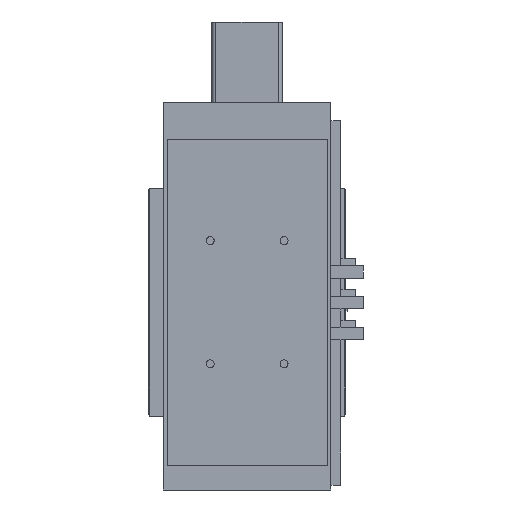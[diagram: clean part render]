
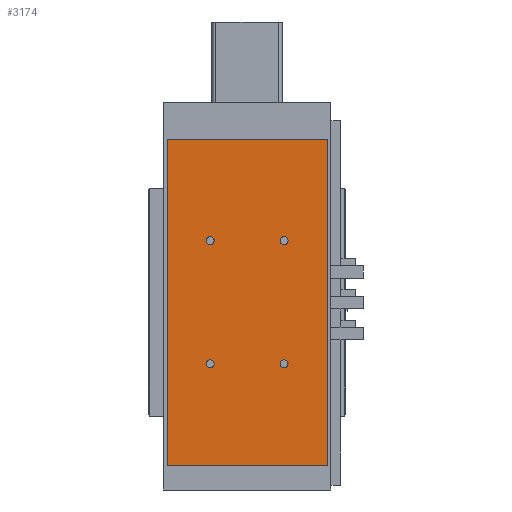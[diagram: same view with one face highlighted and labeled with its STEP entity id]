
A CAD part, front view. The second image highlights one B-rep face of the part: STEP entity #3174.
In plain terms, the highlighted planar face has unit normal (0, -1, 0).
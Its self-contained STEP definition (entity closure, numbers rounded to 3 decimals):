
#978=CARTESIAN_POINT('',(26.75,0.0,82.5));
#979=VERTEX_POINT('',#978);
#980=CARTESIAN_POINT('',(30.,0.0,82.5));
#981=DIRECTION('',(0.0,1.0,0.0));
#982=DIRECTION('',(1.0,0.0,0.0));
#983=AXIS2_PLACEMENT_3D('',#980,#981,#982);
#984=CIRCLE('',#983,3.25);
#985=EDGE_CURVE('',#979,#979,#984,.T.);
#1019=CARTESIAN_POINT('',(-33.25,0.0,82.5));
#1020=VERTEX_POINT('',#1019);
#1021=CARTESIAN_POINT('',(-30.,0.0,82.5));
#1022=DIRECTION('',(0.0,1.0,0.0));
#1023=DIRECTION('',(1.0,0.0,0.0));
#1024=AXIS2_PLACEMENT_3D('',#1021,#1022,#1023);
#1025=CIRCLE('',#1024,3.25);
#1026=EDGE_CURVE('',#1020,#1020,#1025,.T.);
#1198=CARTESIAN_POINT('',(26.75,0.0,182.5));
#1199=VERTEX_POINT('',#1198);
#1200=CARTESIAN_POINT('',(30.,0.0,182.5));
#1201=DIRECTION('',(0.0,1.0,0.0));
#1202=DIRECTION('',(1.0,0.0,0.0));
#1203=AXIS2_PLACEMENT_3D('',#1200,#1201,#1202);
#1204=CIRCLE('',#1203,3.25);
#1205=EDGE_CURVE('',#1199,#1199,#1204,.T.);
#1308=CARTESIAN_POINT('',(-33.25,0.0,182.5));
#1309=VERTEX_POINT('',#1308);
#1310=CARTESIAN_POINT('',(-30.,0.0,182.5));
#1311=DIRECTION('',(0.0,1.0,0.0));
#1312=DIRECTION('',(1.0,0.0,0.0));
#1313=AXIS2_PLACEMENT_3D('',#1310,#1311,#1312);
#1314=CIRCLE('',#1313,3.25);
#1315=EDGE_CURVE('',#1309,#1309,#1314,.T.);
#1642=CARTESIAN_POINT('',(65.0,0.0,0.0));
#1643=VERTEX_POINT('',#1642);
#1650=CARTESIAN_POINT('',(-65.0,0.0,0.0));
#1651=VERTEX_POINT('',#1650);
#1652=CARTESIAN_POINT('',(-65.0,0.0,0.0));
#1653=DIRECTION('',(1.0,0.0,0.0));
#1654=VECTOR('',#1653,130.0);
#1655=LINE('',#1652,#1654);
#1656=EDGE_CURVE('',#1651,#1643,#1655,.T.);
#3082=CARTESIAN_POINT('',(-65.0,0.0,265.0));
#3083=VERTEX_POINT('',#3082);
#3090=CARTESIAN_POINT('',(65.0,0.0,265.0));
#3091=VERTEX_POINT('',#3090);
#3092=CARTESIAN_POINT('',(65.0,0.0,265.0));
#3093=DIRECTION('',(-1.0,0.0,0.0));
#3094=VECTOR('',#3093,130.0);
#3095=LINE('',#3092,#3094);
#3096=EDGE_CURVE('',#3091,#3083,#3095,.T.);
#3119=CARTESIAN_POINT('',(-65.0,0.0,0.0));
#3120=DIRECTION('',(0.0,0.0,1.0));
#3121=VECTOR('',#3120,265.0);
#3122=LINE('',#3119,#3121);
#3123=EDGE_CURVE('',#1651,#3083,#3122,.T.);
#3141=CARTESIAN_POINT('',(65.0,0.0,0.0));
#3142=DIRECTION('',(0.0,0.0,1.0));
#3143=VECTOR('',#3142,265.0);
#3144=LINE('',#3141,#3143);
#3145=EDGE_CURVE('',#1643,#3091,#3144,.T.);
#3151=CARTESIAN_POINT('',(65.0,0.0,0.0));
#3152=DIRECTION('',(0.0,-1.0,0.0));
#3153=DIRECTION('',(0.0,0.0,-1.0));
#3154=AXIS2_PLACEMENT_3D('',#3151,#3152,#3153);
#3155=PLANE('',#3154);
#3156=ORIENTED_EDGE('',*,*,#3096,.T.);
#3157=ORIENTED_EDGE('',*,*,#3123,.F.);
#3158=ORIENTED_EDGE('',*,*,#1656,.T.);
#3159=ORIENTED_EDGE('',*,*,#3145,.T.);
#3160=EDGE_LOOP('',(#3156,#3157,#3158,#3159));
#3161=FACE_OUTER_BOUND('',#3160,.T.);
#3162=ORIENTED_EDGE('',*,*,#985,.T.);
#3163=EDGE_LOOP('',(#3162));
#3164=FACE_BOUND('',#3163,.T.);
#3165=ORIENTED_EDGE('',*,*,#1026,.T.);
#3166=EDGE_LOOP('',(#3165));
#3167=FACE_BOUND('',#3166,.T.);
#3168=ORIENTED_EDGE('',*,*,#1205,.T.);
#3169=EDGE_LOOP('',(#3168));
#3170=FACE_BOUND('',#3169,.T.);
#3171=ORIENTED_EDGE('',*,*,#1315,.T.);
#3172=EDGE_LOOP('',(#3171));
#3173=FACE_BOUND('',#3172,.T.);
#3174=ADVANCED_FACE('',(#3161,#3164,#3167,#3170,#3173),#3155,.T.);
